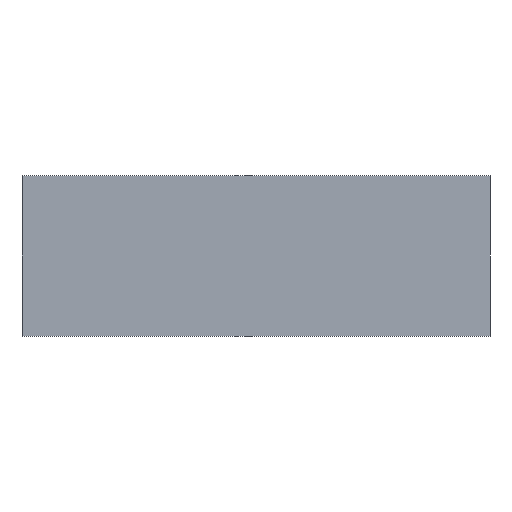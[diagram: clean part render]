
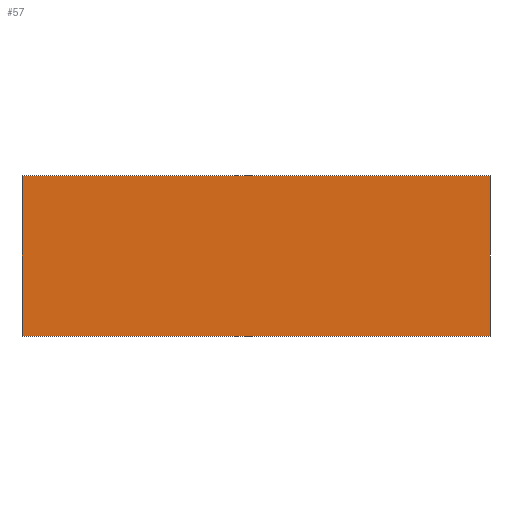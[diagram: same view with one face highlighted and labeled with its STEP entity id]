
A CAD part, front view. The second image highlights one B-rep face of the part: STEP entity #57.
In plain terms, the highlighted planar face has unit normal (0, -1, 0).
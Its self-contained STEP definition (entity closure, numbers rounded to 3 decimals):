
#21 = EDGE_CURVE('',#22,#24,#26,.T.);
#22 = VERTEX_POINT('',#23);
#23 = CARTESIAN_POINT('',(0.,0.,0.));
#24 = VERTEX_POINT('',#25);
#25 = CARTESIAN_POINT('',(0.,0.,24.));
#26 = LINE('',#27,#28);
#27 = CARTESIAN_POINT('',(0.,0.,0.));
#28 = VECTOR('',#29,1.);
#29 = DIRECTION('',(0.,0.,1.));
#57 = ADVANCED_FACE('',(#58),#83,.F.);
#58 = FACE_BOUND('',#59,.F.);
#59 = EDGE_LOOP('',(#60,#68,#69,#77));
#60 = ORIENTED_EDGE('',*,*,#61,.F.);
#61 = EDGE_CURVE('',#22,#62,#64,.T.);
#62 = VERTEX_POINT('',#63);
#63 = CARTESIAN_POINT('',(70.,0.,0.));
#64 = LINE('',#65,#66);
#65 = CARTESIAN_POINT('',(0.,0.,0.));
#66 = VECTOR('',#67,1.);
#67 = DIRECTION('',(1.,0.,-0.));
#68 = ORIENTED_EDGE('',*,*,#21,.T.);
#69 = ORIENTED_EDGE('',*,*,#70,.T.);
#70 = EDGE_CURVE('',#24,#71,#73,.T.);
#71 = VERTEX_POINT('',#72);
#72 = CARTESIAN_POINT('',(70.,0.,24.));
#73 = LINE('',#74,#75);
#74 = CARTESIAN_POINT('',(0.,0.,24.));
#75 = VECTOR('',#76,1.);
#76 = DIRECTION('',(1.,0.,-0.));
#77 = ORIENTED_EDGE('',*,*,#78,.F.);
#78 = EDGE_CURVE('',#62,#71,#79,.T.);
#79 = LINE('',#80,#81);
#80 = CARTESIAN_POINT('',(70.,0.,0.));
#81 = VECTOR('',#82,1.);
#82 = DIRECTION('',(0.,0.,1.));
#83 = PLANE('',#84);
#84 = AXIS2_PLACEMENT_3D('',#85,#86,#87);
#85 = CARTESIAN_POINT('',(0.,0.,0.));
#86 = DIRECTION('',(-0.,1.,0.));
#87 = DIRECTION('',(0.,0.,1.));
